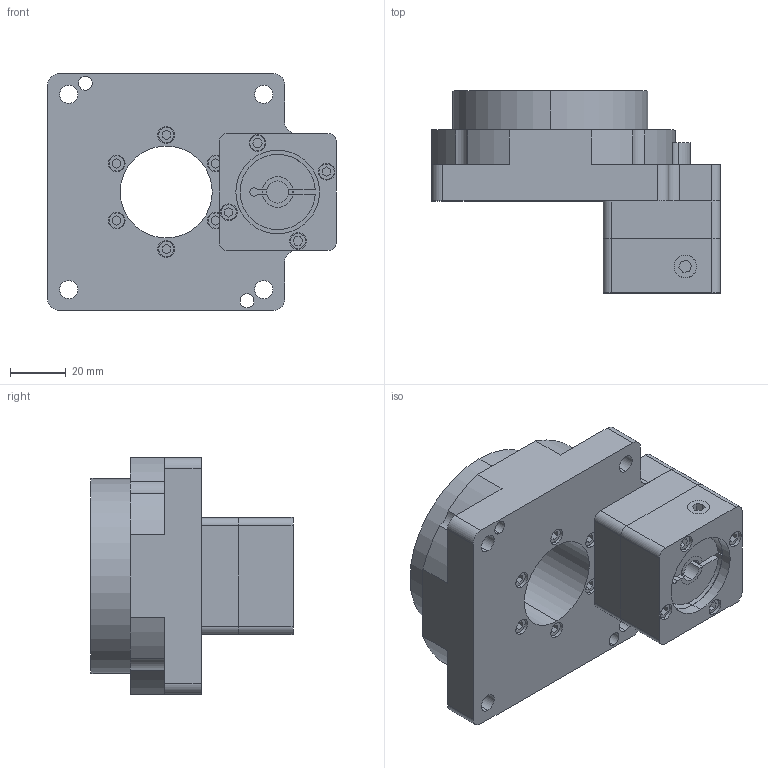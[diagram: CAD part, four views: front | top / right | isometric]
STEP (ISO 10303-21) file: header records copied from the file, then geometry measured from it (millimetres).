
FILE_DESCRIPTION (( 'STEP AP214' ), '1' );
FILE_NAME ('WP85-15.STEP', '2020-05-12T08:15:39', ( '' ), ( '' ), 'SwSTEP 2.0', 'SolidWorks 2020', '' );
FILE_SCHEMA (( 'AUTOMOTIVE_DESIGN' ));
Length unit declared in the file: millimetre
Products named in the file (1): WP85-15
Bounding box: 103.5 x 72.5 x 85 mm (x, y, z)
Volume: 243668.4 mm3; surface area: 51002.4 mm2
Topology: 3 solids, 9 shells, 337 faces, 804 edges, 526 vertices
Faces by surface type: plane 171, cylinder 154, cone 12
Entity records: 10124 total; most frequent: CARTESIAN_POINT 1956, DIRECTION 1784, ORIENTED_EDGE 1584, EDGE_CURVE 792, AXIS2_PLACEMENT_3D 660, VERTEX_POINT 526, VECTOR 464, LINE 464
